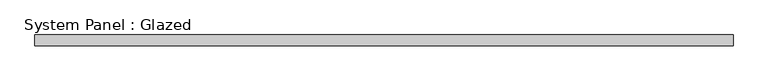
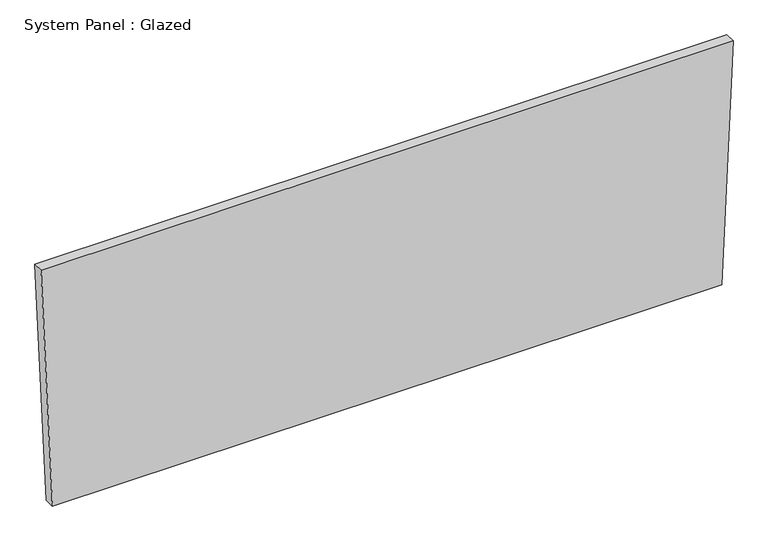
"""IFC4 building model written with IfcOpenShell, lengths in millimetres: plate geometry, System Panel : Glazed."""

import ifcopenshell
import ifcopenshell.guid

model = None  # the IFC model being written
_history = None  # IfcOwnerHistory: only IFC2X3 demands one
_inside = {}  # id of a spatial element -> (the spatial element, [elements in it])
_under = {}  # id of a project, library or spatial element -> (it, [spatial elements below it])
_declared = {}  # id of a project -> (the project, [libraries it declares])
_typed = {}  # id of a type object -> (the type object, [elements of that type])
_made_of = {}  # id of a material, layer set ... -> (it, [elements and type objects made of it])


def new_model(schema):
    """Start an empty IFC model of exactly this schema.

    Asked for "IFC4X3", IfcOpenShell would pick the latest addendum, in which some entities
    have other attributes; the version numbers below select the first issue.
    IFC2X3 requires an IfcOwnerHistory on every rooted entity: one is made here for all.
    """
    global model, _history
    if schema == "IFC4X3":
        model = ifcopenshell.file(schema_version=(4, 3, 0, 0))
    else:
        model = ifcopenshell.file(schema=schema)
    _inside.clear()
    _under.clear()
    _declared.clear()
    _typed.clear()
    _made_of.clear()
    _history = None
    if model.schema == "IFC2X3":
        org = make("IfcOrganization", Name="unknown")
        user = make(
            "IfcPersonAndOrganization",
            ThePerson=make("IfcPerson", FamilyName="unknown"),
            TheOrganization=org,
        )
        app = make(
            "IfcApplication",
            ApplicationDeveloper=org,
            Version="unknown",
            ApplicationFullName="unknown",
            ApplicationIdentifier="unknown",
        )
        _history = make(
            "IfcOwnerHistory",
            OwningUser=user,
            OwningApplication=app,
            ChangeAction="ADDED",
            CreationDate=0,
        )
    return model


def make(cls, **values):
    """One entity of the class cls with the attributes given. An attribute that is None is left unset."""
    return model.create_entity(
        cls, **{name: value for name, value in values.items() if value is not None}
    )


def rooted(cls, **values):
    """An entity with a GlobalId (a new one), such as an element, a storey or a relation."""
    return make(cls, GlobalId=ifcopenshell.guid.new(), OwnerHistory=_history, **values)


def si_unit(unit_type, name, prefix=None):
    """IfcSIUnit, for example si_unit("LENGTHUNIT", "METRE", prefix="MILLI")."""
    return make("IfcSIUnit", UnitType=unit_type, Prefix=prefix, Name=name)


def assignment(units):
    """IfcUnitAssignment: the units of a project."""
    return None if units is None else make("IfcUnitAssignment", Units=units)


def point(xyz):
    """IfcCartesianPoint."""
    return None if xyz is None else make("IfcCartesianPoint", Coordinates=xyz)


def direction(xyz):
    """IfcDirection."""
    return None if xyz is None else make("IfcDirection", DirectionRatios=xyz)


def frame(location, z_axis=None, x_axis=None):
    """IfcAxis2Placement3D, a coordinate frame: its origin and axes. An axis left out is left unset."""
    return make(
        "IfcAxis2Placement3D",
        Location=point(location),
        Axis=direction(z_axis),
        RefDirection=direction(x_axis),
    )


def origin():
    """The frame at (0, 0, 0) with its axes left unset."""
    return frame((0.0, 0.0, 0.0))


def place(relative_to, where):
    """IfcLocalPlacement: puts the frame where relative to a parent placement (None: the world)."""
    return make(
        "IfcLocalPlacement", PlacementRelTo=relative_to, RelativePlacement=where
    )


def context(
    kind, dimensions, precision=None, world=None, true_north=None, identifier=None
):
    """IfcGeometricRepresentationContext, for example the 3D "Model" context."""
    return make(
        "IfcGeometricRepresentationContext",
        ContextIdentifier=identifier,
        ContextType=kind,
        CoordinateSpaceDimension=dimensions,
        Precision=precision,
        WorldCoordinateSystem=world,
        TrueNorth=true_north,
    )


def project(units=None, contexts=None):
    """IfcProject with its units and contexts."""
    return rooted(
        "IfcProject",
        Name="project",
        RepresentationContexts=contexts,
        UnitsInContext=assignment(units),
    )


def spatial(cls, under=None, at=None, **own):
    """A site, building, storey or space (cls), placed at a placement, below another one or the project."""
    s = rooted(cls, ObjectPlacement=at, **own)
    if under is not None:
        _under.setdefault(under.id(), (under, []))[1].append(s)
    return s


def polyline(points):
    """IfcPolyline through the points."""
    return make("IfcPolyline", Points=[point(p) for p in points])


def outline(outer, holes=None, kind="AREA"):
    """IfcArbitraryClosedProfileDef: a profile drawn as a closed curve; with holes, ...WithVoids."""
    if holes is None:
        return make("IfcArbitraryClosedProfileDef", ProfileType=kind, OuterCurve=outer)
    return make(
        "IfcArbitraryProfileDefWithVoids",
        ProfileType=kind,
        OuterCurve=outer,
        InnerCurves=holes,
    )


def extrude(swept, where, along, depth):
    """IfcExtrudedAreaSolid: the profile swept, set in the frame where, extruded along a direction by depth."""
    return make(
        "IfcExtrudedAreaSolid",
        SweptArea=swept,
        Position=where,
        ExtrudedDirection=direction(along),
        Depth=depth,
    )


def shape(context_of_items, identifier, shape_type, items):
    """IfcShapeRepresentation: the items that make up one representation, for example the "Body"."""
    return make(
        "IfcShapeRepresentation",
        ContextOfItems=context_of_items,
        RepresentationIdentifier=identifier,
        RepresentationType=shape_type,
        Items=items,
    )


def source(mapping_origin, context_of_items, identifier, shape_type, items):
    """IfcRepresentationMap: a shape defined once, which mapped items show again and again."""
    return make(
        "IfcRepresentationMap",
        MappingOrigin=mapping_origin,
        MappedRepresentation=shape(context_of_items, identifier, shape_type, items),
    )


def transform(
    local_origin,
    x_axis=None,
    y_axis=None,
    z_axis=None,
    scale=None,
    scale2=None,
    scale3=None,
    uniform=True,
):
    """IfcCartesianTransformationOperator3D, or its non-uniform kind. x_axis, y_axis, z_axis: its Axis1, 2, 3."""
    if uniform:
        return make(
            "IfcCartesianTransformationOperator3D",
            Axis1=direction(x_axis),
            Axis2=direction(y_axis),
            LocalOrigin=point(local_origin),
            Scale=scale,
            Axis3=direction(z_axis),
        )
    return make(
        "IfcCartesianTransformationOperator3DnonUniform",
        Axis1=direction(x_axis),
        Axis2=direction(y_axis),
        LocalOrigin=point(local_origin),
        Scale=scale,
        Axis3=direction(z_axis),
        Scale2=scale2,
        Scale3=scale3,
    )


def mapped(mapping_source, mapping_target):
    """IfcMappedItem: shows the shape of a source again, moved by a transform."""
    return make(
        "IfcMappedItem", MappingSource=mapping_source, MappingTarget=mapping_target
    )


def made_of(thing, what):
    """Note that an element or type object is made of a material, layer set ...; save() writes the relation."""
    if what is not None:
        _made_of.setdefault(what.id(), (what, []))[1].append(thing)
    return thing


def element(
    cls,
    number,
    at=None,
    inside=None,
    cuts=None,
    type_object=None,
    material=None,
    context=None,
    identifier="Body",
    shape_type=None,
    held_by="IfcProductDefinitionShape",
    body=None,
    shapes=None,
    **own,
):
    """One element of the class cls, such as IfcWall. Its Tag is "e" and its number.

    at: its placement. inside: the storey or other place that contains it. cuts: it is an
    opening in that element (IfcRelVoidsElement). A single representation is given by context,
    identifier, shape_type and body (its items); several are given by shapes. held_by: the class
    of the entity that holds the representations. save() writes the other relations.
    """
    e = rooted(cls, Tag="e%d" % number, ObjectPlacement=at, **own)
    if body is not None:
        shapes = [shape(context, identifier, shape_type, body)]
    if shapes is not None:
        e.Representation = make(held_by, Representations=shapes)
    if inside is not None:
        _inside.setdefault(inside.id(), (inside, []))[1].append(e)
    if cuts is not None:
        rooted(
            "IfcRelVoidsElement", RelatingBuildingElement=cuts, RelatedOpeningElement=e
        )
    if type_object is not None:
        _typed.setdefault(type_object.id(), (type_object, []))[1].append(e)
    return made_of(e, material)


def aggregate(whole, parts):
    """IfcRelAggregates: a whole, such as a stair, and the parts it consists of."""
    return rooted("IfcRelAggregates", RelatingObject=whole, RelatedObjects=parts)


def save(model, path):
    """Write the relations noted so far, then the file.

    IfcRelAggregates (storeys below a building ...), IfcRelContainedInSpatialStructure (elements
    in a storey), IfcRelDefinesByType, IfcRelAssociatesMaterial and IfcRelDeclares: one each for
    every whole, place, type object, material and project.
    """
    for whole, parts in _under.values():
        aggregate(whole, parts)
    for where, things in _inside.values():
        rooted(
            "IfcRelContainedInSpatialStructure",
            RelatedElements=things,
            RelatingStructure=where,
        )
    for kind, things in _typed.values():
        rooted("IfcRelDefinesByType", RelatedObjects=things, RelatingType=kind)
    for what, things in _made_of.values():
        rooted("IfcRelAssociatesMaterial", RelatedObjects=things, RelatingMaterial=what)
    for by, libraries in _declared.values():
        rooted("IfcRelDeclares", RelatingContext=by, RelatedDefinitions=libraries)
    model.write(path)


def system_panel_glazed_4724628e(model_context):
    return source(origin(), model_context, "Body", "SweptSolid", [
        extrude(outline(polyline([(0.0, -803.6714423), (0.0, 803.6714423), (608.995487, 830.8128655), (608.995487, -830.8128655), (0.0, -803.6714423)])), frame((0.0, -44.45, 0.0), z_axis=(0.0, 1.0, 0.0), x_axis=(0.0, 0.0, 1.0)), (0.0, 0.0, 1.0), 25.4),
    ])


if __name__ == "__main__":
    model = new_model("IFC4")
    model_context = context("Model", 3, world=origin())
    ifc_project = project(units=[si_unit("LENGTHUNIT", "METRE", prefix="MILLI")], contexts=[model_context])
    site = spatial("IfcSite", under=ifc_project)
    building = spatial("IfcBuilding", under=site)
    placement = place(None, origin())
    system_panel_glazed_shape = system_panel_glazed_4724628e(model_context)
    element("IfcPlate", 1, ObjectType="System Panel : Glazed", at=placement, inside=building, context=model_context, shape_type="MappedRepresentation", body=[
        mapped(system_panel_glazed_shape, transform((0.0, 0.0, 0.0), x_axis=(1.0, 0.0, 0.0), y_axis=(0.0, 1.0, 0.0), z_axis=(0.0, 0.0, 1.0))),
    ])
    save(model, "model.ifc")
